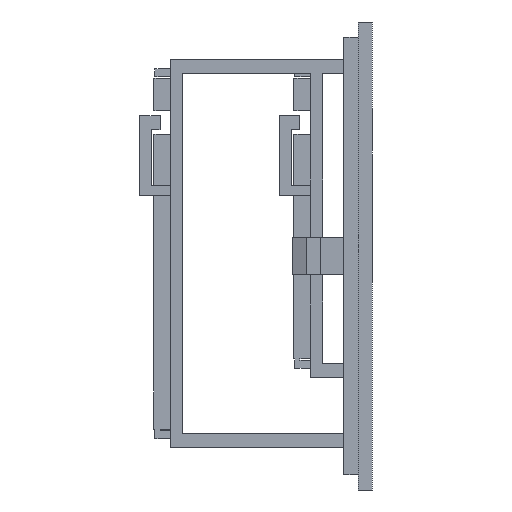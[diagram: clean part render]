
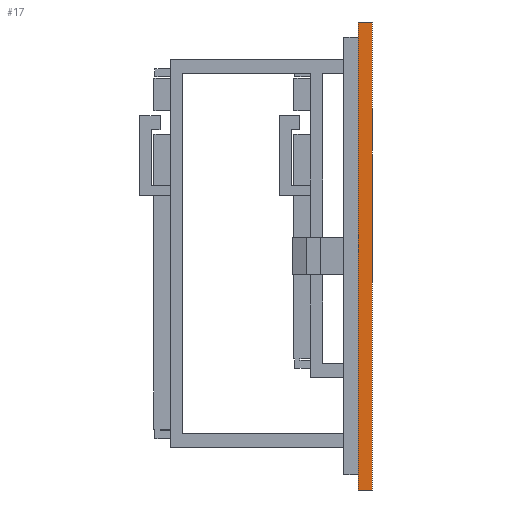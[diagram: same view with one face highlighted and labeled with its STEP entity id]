
A CAD part, left-side view. The second image highlights one B-rep face of the part: STEP entity #17.
In plain terms, the highlighted planar face has unit normal (-1, 0, 0).
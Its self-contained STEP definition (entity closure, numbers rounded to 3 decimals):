
#17 = ADVANCED_FACE('',(#18),#32,.F.);
#18 = FACE_BOUND('',#19,.F.);
#19 = EDGE_LOOP('',(#20,#55,#83,#111));
#20 = ORIENTED_EDGE('',*,*,#21,.F.);
#21 = EDGE_CURVE('',#22,#24,#26,.T.);
#22 = VERTEX_POINT('',#23);
#23 = CARTESIAN_POINT('',(0.,0.,0.));
#24 = VERTEX_POINT('',#25);
#25 = CARTESIAN_POINT('',(0.,0.,100.));
#26 = SURFACE_CURVE('',#27,(#31,#43),.PCURVE_S1.);
#27 = LINE('',#28,#29);
#28 = CARTESIAN_POINT('',(0.,0.,0.));
#29 = VECTOR('',#30,1.);
#30 = DIRECTION('',(0.,0.,1.));
#31 = PCURVE('',#32,#37);
#32 = PLANE('',#33);
#33 = AXIS2_PLACEMENT_3D('',#34,#35,#36);
#34 = CARTESIAN_POINT('',(0.,0.,0.));
#35 = DIRECTION('',(1.,0.,0.));
#36 = DIRECTION('',(0.,0.,1.));
#37 = DEFINITIONAL_REPRESENTATION('',(#38),#42);
#38 = LINE('',#39,#40);
#39 = CARTESIAN_POINT('',(0.,0.));
#40 = VECTOR('',#41,1.);
#41 = DIRECTION('',(1.,0.));
#42 = ( GEOMETRIC_REPRESENTATION_CONTEXT(2) 
PARAMETRIC_REPRESENTATION_CONTEXT() REPRESENTATION_CONTEXT('2D SPACE',''
  ) );
#43 = PCURVE('',#44,#49);
#44 = PLANE('',#45);
#45 = AXIS2_PLACEMENT_3D('',#46,#47,#48);
#46 = CARTESIAN_POINT('',(0.,0.,0.));
#47 = DIRECTION('',(0.,1.,0.));
#48 = DIRECTION('',(0.,0.,1.));
#49 = DEFINITIONAL_REPRESENTATION('',(#50),#54);
#50 = LINE('',#51,#52);
#51 = CARTESIAN_POINT('',(0.,0.));
#52 = VECTOR('',#53,1.);
#53 = DIRECTION('',(1.,0.));
#54 = ( GEOMETRIC_REPRESENTATION_CONTEXT(2) 
PARAMETRIC_REPRESENTATION_CONTEXT() REPRESENTATION_CONTEXT('2D SPACE',''
  ) );
#55 = ORIENTED_EDGE('',*,*,#56,.T.);
#56 = EDGE_CURVE('',#22,#57,#59,.T.);
#57 = VERTEX_POINT('',#58);
#58 = CARTESIAN_POINT('',(0.,3.,0.));
#59 = SURFACE_CURVE('',#60,(#64,#71),.PCURVE_S1.);
#60 = LINE('',#61,#62);
#61 = CARTESIAN_POINT('',(0.,0.,0.));
#62 = VECTOR('',#63,1.);
#63 = DIRECTION('',(0.,1.,0.));
#64 = PCURVE('',#32,#65);
#65 = DEFINITIONAL_REPRESENTATION('',(#66),#70);
#66 = LINE('',#67,#68);
#67 = CARTESIAN_POINT('',(0.,0.));
#68 = VECTOR('',#69,1.);
#69 = DIRECTION('',(0.,-1.));
#70 = ( GEOMETRIC_REPRESENTATION_CONTEXT(2) 
PARAMETRIC_REPRESENTATION_CONTEXT() REPRESENTATION_CONTEXT('2D SPACE',''
  ) );
#71 = PCURVE('',#72,#77);
#72 = PLANE('',#73);
#73 = AXIS2_PLACEMENT_3D('',#74,#75,#76);
#74 = CARTESIAN_POINT('',(0.,0.,0.));
#75 = DIRECTION('',(0.,0.,1.));
#76 = DIRECTION('',(1.,0.,0.));
#77 = DEFINITIONAL_REPRESENTATION('',(#78),#82);
#78 = LINE('',#79,#80);
#79 = CARTESIAN_POINT('',(0.,0.));
#80 = VECTOR('',#81,1.);
#81 = DIRECTION('',(0.,1.));
#82 = ( GEOMETRIC_REPRESENTATION_CONTEXT(2) 
PARAMETRIC_REPRESENTATION_CONTEXT() REPRESENTATION_CONTEXT('2D SPACE',''
  ) );
#83 = ORIENTED_EDGE('',*,*,#84,.T.);
#84 = EDGE_CURVE('',#57,#85,#87,.T.);
#85 = VERTEX_POINT('',#86);
#86 = CARTESIAN_POINT('',(0.,3.,100.));
#87 = SURFACE_CURVE('',#88,(#92,#99),.PCURVE_S1.);
#88 = LINE('',#89,#90);
#89 = CARTESIAN_POINT('',(0.,3.,0.));
#90 = VECTOR('',#91,1.);
#91 = DIRECTION('',(0.,0.,1.));
#92 = PCURVE('',#32,#93);
#93 = DEFINITIONAL_REPRESENTATION('',(#94),#98);
#94 = LINE('',#95,#96);
#95 = CARTESIAN_POINT('',(0.,-3.));
#96 = VECTOR('',#97,1.);
#97 = DIRECTION('',(1.,0.));
#98 = ( GEOMETRIC_REPRESENTATION_CONTEXT(2) 
PARAMETRIC_REPRESENTATION_CONTEXT() REPRESENTATION_CONTEXT('2D SPACE',''
  ) );
#99 = PCURVE('',#100,#105);
#100 = PLANE('',#101);
#101 = AXIS2_PLACEMENT_3D('',#102,#103,#104);
#102 = CARTESIAN_POINT('',(0.,3.,0.));
#103 = DIRECTION('',(0.,1.,0.));
#104 = DIRECTION('',(0.,0.,1.));
#105 = DEFINITIONAL_REPRESENTATION('',(#106),#110);
#106 = LINE('',#107,#108);
#107 = CARTESIAN_POINT('',(0.,0.));
#108 = VECTOR('',#109,1.);
#109 = DIRECTION('',(1.,0.));
#110 = ( GEOMETRIC_REPRESENTATION_CONTEXT(2) 
PARAMETRIC_REPRESENTATION_CONTEXT() REPRESENTATION_CONTEXT('2D SPACE',''
  ) );
#111 = ORIENTED_EDGE('',*,*,#112,.F.);
#112 = EDGE_CURVE('',#24,#85,#113,.T.);
#113 = SURFACE_CURVE('',#114,(#118,#125),.PCURVE_S1.);
#114 = LINE('',#115,#116);
#115 = CARTESIAN_POINT('',(0.,0.,100.));
#116 = VECTOR('',#117,1.);
#117 = DIRECTION('',(0.,1.,0.));
#118 = PCURVE('',#32,#119);
#119 = DEFINITIONAL_REPRESENTATION('',(#120),#124);
#120 = LINE('',#121,#122);
#121 = CARTESIAN_POINT('',(100.,0.));
#122 = VECTOR('',#123,1.);
#123 = DIRECTION('',(0.,-1.));
#124 = ( GEOMETRIC_REPRESENTATION_CONTEXT(2) 
PARAMETRIC_REPRESENTATION_CONTEXT() REPRESENTATION_CONTEXT('2D SPACE',''
  ) );
#125 = PCURVE('',#126,#131);
#126 = PLANE('',#127);
#127 = AXIS2_PLACEMENT_3D('',#128,#129,#130);
#128 = CARTESIAN_POINT('',(0.,0.,100.));
#129 = DIRECTION('',(0.,0.,1.));
#130 = DIRECTION('',(1.,0.,0.));
#131 = DEFINITIONAL_REPRESENTATION('',(#132),#136);
#132 = LINE('',#133,#134);
#133 = CARTESIAN_POINT('',(0.,0.));
#134 = VECTOR('',#135,1.);
#135 = DIRECTION('',(0.,1.));
#136 = ( GEOMETRIC_REPRESENTATION_CONTEXT(2) 
PARAMETRIC_REPRESENTATION_CONTEXT() REPRESENTATION_CONTEXT('2D SPACE',''
  ) );
